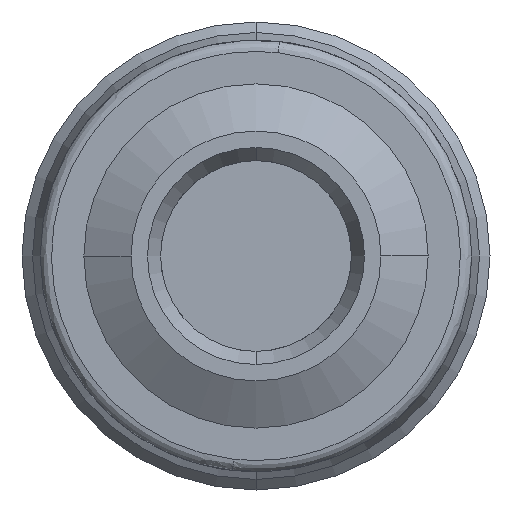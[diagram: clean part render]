
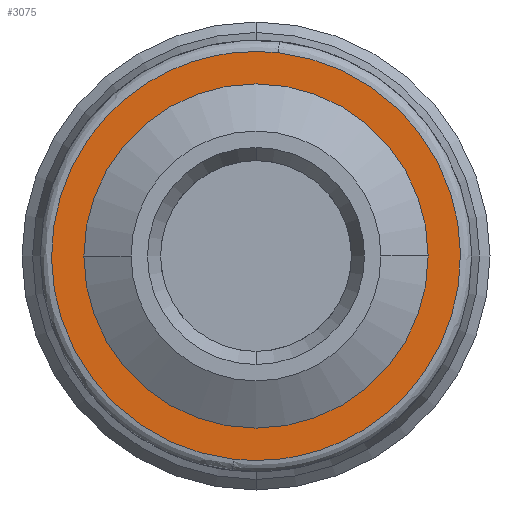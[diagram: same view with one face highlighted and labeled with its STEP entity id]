
A CAD part, front view. The second image highlights one B-rep face of the part: STEP entity #3075.
In plain terms, the highlighted planar face has unit normal (0, -1, 0).
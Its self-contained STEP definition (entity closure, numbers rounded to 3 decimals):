
#93 = CARTESIAN_POINT ( 'NONE',  ( -0.49, -2.8, -4.473 ) ) ;
#120 = EDGE_CURVE ( 'NONE', #1159, #1316, #651, .T. ) ;
#241 = DIRECTION ( 'NONE',  ( 0., 1., 0. ) ) ;
#274 = DIRECTION ( 'NONE',  ( -1., 0., 0. ) ) ;
#464 = CARTESIAN_POINT ( 'NONE',  ( 0.49, -2.8, 4.473 ) ) ;
#599 = AXIS2_PLACEMENT_3D ( 'NONE', #2301, #2245, #2235 ) ;
#651 =( BOUNDED_CURVE ( )  B_SPLINE_CURVE ( 3, ( #1446, #1518, #1509, #1535 ),
 .UNSPECIFIED., .F., .F. ) 
 B_SPLINE_CURVE_WITH_KNOTS ( ( 4, 4 ),
 ( 0., 1. ),
 .UNSPECIFIED. ) 
 CURVE ( )  GEOMETRIC_REPRESENTATION_ITEM ( )  RATIONAL_B_SPLINE_CURVE ( ( 0.957, 0.319, 0.319, 0.957 ) ) 
 REPRESENTATION_ITEM ( '' )  );
#786 = CARTESIAN_POINT ( 'NONE',  ( 0.49, -2.8, 4.473 ) ) ;
#801 = CARTESIAN_POINT ( 'NONE',  ( 9.436, -2.8, 3.494 ) ) ;
#961 = AXIS2_PLACEMENT_3D ( 'NONE', #1433, #1303, #1294 ) ;
#972 = CARTESIAN_POINT ( 'NONE',  ( -0.49, -2.8, -4.473 ) ) ;
#979 = EDGE_LOOP ( 'NONE', ( #2522, #2550 ) ) ;
#988 = CARTESIAN_POINT ( 'NONE',  ( 8.457, -2.8, -5.452 ) ) ;
#1017 = AXIS2_PLACEMENT_3D ( 'NONE', #1060, #241, #274 ) ;
#1060 = CARTESIAN_POINT ( 'NONE',  ( 0., -2.8, 0. ) ) ;
#1159 = VERTEX_POINT ( 'NONE', #93 ) ;
#1249 = CARTESIAN_POINT ( 'NONE',  ( -3.789, -2.8, 0. ) ) ;
#1294 = DIRECTION ( 'NONE',  ( -1., 0., 0. ) ) ;
#1303 = DIRECTION ( 'NONE',  ( 0., 1., 0. ) ) ;
#1316 = VERTEX_POINT ( 'NONE', #464 ) ;
#1433 = CARTESIAN_POINT ( 'NONE',  ( 0., -2.8, 0. ) ) ;
#1446 = CARTESIAN_POINT ( 'NONE',  ( -0.49, -2.8, -4.473 ) ) ;
#1509 = CARTESIAN_POINT ( 'NONE',  ( -8.457, -2.8, 5.452 ) ) ;
#1518 = CARTESIAN_POINT ( 'NONE',  ( -9.436, -2.8, -3.494 ) ) ;
#1535 = CARTESIAN_POINT ( 'NONE',  ( 0.49, -2.8, 4.473 ) ) ;
#1668 =( BOUNDED_CURVE ( )  B_SPLINE_CURVE ( 3, ( #786, #801, #988, #972 ),
 .UNSPECIFIED., .F., .F. ) 
 B_SPLINE_CURVE_WITH_KNOTS ( ( 4, 4 ),
 ( 0., 1. ),
 .UNSPECIFIED. ) 
 CURVE ( )  GEOMETRIC_REPRESENTATION_ITEM ( )  RATIONAL_B_SPLINE_CURVE ( ( 0.957, 0.319, 0.319, 0.957 ) ) 
 REPRESENTATION_ITEM ( '' )  );
#1743 = PLANE ( 'NONE',  #599 ) ;
#2094 = ORIENTED_EDGE ( 'NONE', *, *, #2964, .F. ) ;
#2109 = CARTESIAN_POINT ( 'NONE',  ( 3.789, -2.8, 0. ) ) ;
#2154 = VERTEX_POINT ( 'NONE', #2109 ) ;
#2181 = FACE_OUTER_BOUND ( 'NONE', #2676, .T. ) ;
#2186 = FACE_BOUND ( 'NONE', #979, .T. ) ;
#2235 = DIRECTION ( 'NONE',  ( 0.109, 0., 0.994 ) ) ;
#2242 = VERTEX_POINT ( 'NONE', #1249 ) ;
#2245 = DIRECTION ( 'NONE',  ( 0., -1., 0. ) ) ;
#2301 = CARTESIAN_POINT ( 'NONE',  ( 4.032, -2.8, -5.022 ) ) ;
#2429 = CIRCLE ( 'NONE', #961, 3.789 ) ;
#2512 = ORIENTED_EDGE ( 'NONE', *, *, #120, .F. ) ;
#2522 = ORIENTED_EDGE ( 'NONE', *, *, #2918, .T. ) ;
#2550 = ORIENTED_EDGE ( 'NONE', *, *, #2787, .T. ) ;
#2676 = EDGE_LOOP ( 'NONE', ( #2512, #2094 ) ) ;
#2686 = CIRCLE ( 'NONE', #1017, 3.789 ) ;
#2787 = EDGE_CURVE ( 'NONE', #2154, #2242, #2686, .T. ) ;
#2918 = EDGE_CURVE ( 'NONE', #2242, #2154, #2429, .T. ) ;
#2964 = EDGE_CURVE ( 'NONE', #1316, #1159, #1668, .T. ) ;
#3075 = ADVANCED_FACE ( 'NONE', ( #2186, #2181 ), #1743, .T. ) ;
